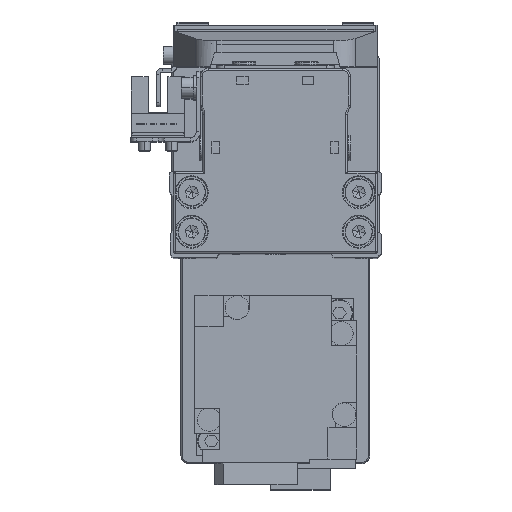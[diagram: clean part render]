
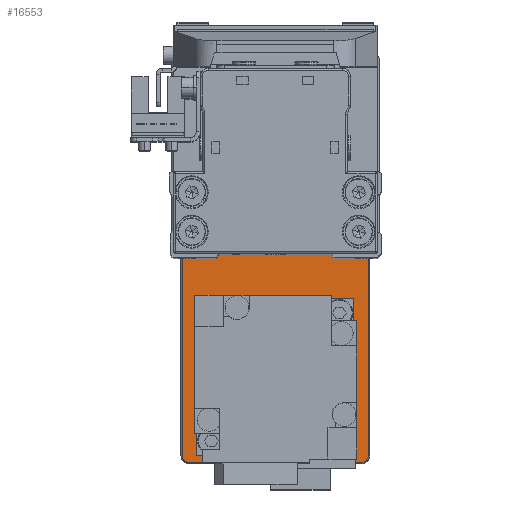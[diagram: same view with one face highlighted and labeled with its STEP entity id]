
A CAD part, top view. The second image highlights one B-rep face of the part: STEP entity #16553.
In plain terms, the highlighted planar face has unit normal (0, 0, 1).
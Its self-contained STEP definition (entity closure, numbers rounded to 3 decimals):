
#106 = CARTESIAN_POINT ( 'NONE',  ( -50., 23.7, 5. ) ) ;
#455 = VERTEX_POINT ( 'NONE', #2463 ) ;
#719 = ORIENTED_EDGE ( 'NONE', *, *, #7831, .T. ) ;
#885 = EDGE_LOOP ( 'NONE', ( #9531, #19396 ) ) ;
#1222 = VERTEX_POINT ( 'NONE', #2370 ) ;
#1460 = DIRECTION ( 'NONE',  ( -1., 0., 0. ) ) ;
#1535 = CARTESIAN_POINT ( 'NONE',  ( -17.7, 0., 5. ) ) ;
#1923 = EDGE_CURVE ( 'NONE', #1222, #37844, #28459, .T. ) ;
#2027 = DIRECTION ( 'NONE',  ( 1., 0., 0. ) ) ;
#2370 = CARTESIAN_POINT ( 'NONE',  ( 51.7, 22., 5. ) ) ;
#2463 = CARTESIAN_POINT ( 'NONE',  ( -38.3, 0., 5. ) ) ;
#3277 = LINE ( 'NONE', #9198, #26502 ) ;
#3409 = CARTESIAN_POINT ( 'NONE',  ( 30., 0., 5. ) ) ;
#3926 = DIRECTION ( 'NONE',  ( 1., 0., 0. ) ) ;
#4596 = VECTOR ( 'NONE', #1460, 1000. ) ;
#4861 = EDGE_CURVE ( 'NONE', #13318, #455, #13897, .T. ) ;
#4897 = ORIENTED_EDGE ( 'NONE', *, *, #9437, .T. ) ;
#5586 = DIRECTION ( 'NONE',  ( 0., 0., 1. ) ) ;
#5966 = CARTESIAN_POINT ( 'NONE',  ( -51.7, -22., 5. ) ) ;
#6712 = ORIENTED_EDGE ( 'NONE', *, *, #34472, .T. ) ;
#7290 = DIRECTION ( 'NONE',  ( 0., 0., 1. ) ) ;
#7480 = LINE ( 'NONE', #28914, #4596 ) ;
#7816 = LINE ( 'NONE', #20026, #21995 ) ;
#7831 = EDGE_CURVE ( 'NONE', #20052, #9656, #3277, .T. ) ;
#8204 = CARTESIAN_POINT ( 'NONE',  ( 50., 23.7, 5. ) ) ;
#8983 = CARTESIAN_POINT ( 'NONE',  ( 42.8, 0., 5. ) ) ;
#9198 = CARTESIAN_POINT ( 'NONE',  ( -51.7, -22., 5. ) ) ;
#9437 = EDGE_CURVE ( 'NONE', #30264, #20052, #38115, .T. ) ;
#9531 = ORIENTED_EDGE ( 'NONE', *, *, #4861, .T. ) ;
#9656 = VERTEX_POINT ( 'NONE', #5966 ) ;
#10287 = FACE_OUTER_BOUND ( 'NONE', #20638, .T. ) ;
#10383 = CARTESIAN_POINT ( 'NONE',  ( -28., 0., 5. ) ) ;
#10556 = ORIENTED_EDGE ( 'NONE', *, *, #13009, .T. ) ;
#10559 = CARTESIAN_POINT ( 'NONE',  ( -28., 0., 5. ) ) ;
#10585 = DIRECTION ( 'NONE',  ( 0., 0., 1. ) ) ;
#11024 = DIRECTION ( 'NONE',  ( 1., 0., 0. ) ) ;
#11949 = ORIENTED_EDGE ( 'NONE', *, *, #16801, .T. ) ;
#13009 = EDGE_CURVE ( 'NONE', #16357, #22741, #14336, .T. ) ;
#13318 = VERTEX_POINT ( 'NONE', #1535 ) ;
#13635 = AXIS2_PLACEMENT_3D ( 'NONE', #19136, #31380, #3926 ) ;
#13897 = CIRCLE ( 'NONE', #36306, 10.3 ) ;
#14110 = CIRCLE ( 'NONE', #36523, 10.3 ) ;
#14336 = CIRCLE ( 'NONE', #36756, 1.7 ) ;
#14885 = CIRCLE ( 'NONE', #37293, 12.8 ) ;
#15093 = CARTESIAN_POINT ( 'NONE',  ( 30., 0., 5. ) ) ;
#15115 = AXIS2_PLACEMENT_3D ( 'NONE', #3409, #15614, #27864 ) ;
#15614 = DIRECTION ( 'NONE',  ( 0., 0., -1. ) ) ;
#16357 = VERTEX_POINT ( 'NONE', #36369 ) ;
#16553 = ADVANCED_FACE ( 'NONE', ( #25527, #37742, #10287 ), #22499, .T. ) ;
#16719 = VECTOR ( 'NONE', #2027, 1000. ) ;
#16781 = CARTESIAN_POINT ( 'NONE',  ( -50., -23.7, 5. ) ) ;
#16801 = EDGE_CURVE ( 'NONE', #25521, #23343, #32414, .T. ) ;
#17245 = LINE ( 'NONE', #29483, #16719 ) ;
#17677 = ORIENTED_EDGE ( 'NONE', *, *, #27393, .T. ) ;
#17780 = DIRECTION ( 'NONE',  ( 1., 0., 0. ) ) ;
#18508 = CARTESIAN_POINT ( 'NONE',  ( 17.2, 0., 5. ) ) ;
#19136 = CARTESIAN_POINT ( 'NONE',  ( -50., -22., 5. ) ) ;
#19396 = ORIENTED_EDGE ( 'NONE', *, *, #33810, .T. ) ;
#19501 = DIRECTION ( 'NONE',  ( 1., 0., 0. ) ) ;
#20026 = CARTESIAN_POINT ( 'NONE',  ( 51.7, 22., 5. ) ) ;
#20052 = VERTEX_POINT ( 'NONE', #31688 ) ;
#20453 = CARTESIAN_POINT ( 'NONE',  ( 51.7, -22., 5. ) ) ;
#20638 = EDGE_LOOP ( 'NONE', ( #6712, #10556, #24895, #23538, #27084, #4897, #719, #17677 ) ) ;
#20824 = AXIS2_PLACEMENT_3D ( 'NONE', #38037, #10585, #22817 ) ;
#21426 = DIRECTION ( 'NONE',  ( 0., -1., 0. ) ) ;
#21995 = VECTOR ( 'NONE', #32269, 1000. ) ;
#22499 = PLANE ( 'NONE',  #38775 ) ;
#22603 = DIRECTION ( 'NONE',  ( 0., 0., -1. ) ) ;
#22741 = VERTEX_POINT ( 'NONE', #20453 ) ;
#22791 = DIRECTION ( 'NONE',  ( 0., 0., -1. ) ) ;
#22817 = DIRECTION ( 'NONE',  ( 1., 0., 0. ) ) ;
#23343 = VERTEX_POINT ( 'NONE', #8983 ) ;
#23538 = ORIENTED_EDGE ( 'NONE', *, *, #1923, .T. ) ;
#24895 = ORIENTED_EDGE ( 'NONE', *, *, #27929, .T. ) ;
#25521 = VERTEX_POINT ( 'NONE', #18508 ) ;
#25527 = FACE_BOUND ( 'NONE', #36889, .T. ) ;
#25660 = EDGE_CURVE ( 'NONE', #37844, #30264, #7480, .T. ) ;
#26267 = CARTESIAN_POINT ( 'NONE',  ( 50., 22., 5. ) ) ;
#26502 = VECTOR ( 'NONE', #21426, 1000. ) ;
#27084 = ORIENTED_EDGE ( 'NONE', *, *, #25660, .T. ) ;
#27345 = DIRECTION ( 'NONE',  ( 0., 0., -1. ) ) ;
#27393 = EDGE_CURVE ( 'NONE', #9656, #32529, #30943, .T. ) ;
#27864 = DIRECTION ( 'NONE',  ( 1., 0., 0. ) ) ;
#27926 = AXIS2_PLACEMENT_3D ( 'NONE', #26267, #38481, #11024 ) ;
#27929 = EDGE_CURVE ( 'NONE', #22741, #1222, #7816, .T. ) ;
#28459 = CIRCLE ( 'NONE', #27926, 1.7 ) ;
#28914 = CARTESIAN_POINT ( 'NONE',  ( -50., 23.7, 5. ) ) ;
#29483 = CARTESIAN_POINT ( 'NONE',  ( 50., -23.7, 5. ) ) ;
#30264 = VERTEX_POINT ( 'NONE', #106 ) ;
#30943 = CIRCLE ( 'NONE', #13635, 1.7 ) ;
#31380 = DIRECTION ( 'NONE',  ( 0., 0., 1. ) ) ;
#31688 = CARTESIAN_POINT ( 'NONE',  ( -51.7, 22., 5. ) ) ;
#32269 = DIRECTION ( 'NONE',  ( 0., 1., 0. ) ) ;
#32414 = CIRCLE ( 'NONE', #15115, 12.8 ) ;
#32529 = VERTEX_POINT ( 'NONE', #16781 ) ;
#33033 = CARTESIAN_POINT ( 'NONE',  ( 50., -22., 5. ) ) ;
#33423 = ORIENTED_EDGE ( 'NONE', *, *, #35918, .T. ) ;
#33810 = EDGE_CURVE ( 'NONE', #455, #13318, #14110, .T. ) ;
#34472 = EDGE_CURVE ( 'NONE', #32529, #16357, #17245, .T. ) ;
#34736 = CARTESIAN_POINT ( 'NONE',  ( 0., 0., 5. ) ) ;
#34836 = DIRECTION ( 'NONE',  ( 1., 0., 0. ) ) ;
#35006 = DIRECTION ( 'NONE',  ( 1., 0., 0. ) ) ;
#35918 = EDGE_CURVE ( 'NONE', #23343, #25521, #14885, .T. ) ;
#36306 = AXIS2_PLACEMENT_3D ( 'NONE', #10559, #22791, #35006 ) ;
#36369 = CARTESIAN_POINT ( 'NONE',  ( 50., -23.7, 5. ) ) ;
#36523 = AXIS2_PLACEMENT_3D ( 'NONE', #10383, #22603, #34836 ) ;
#36756 = AXIS2_PLACEMENT_3D ( 'NONE', #33033, #5586, #17780 ) ;
#36889 = EDGE_LOOP ( 'NONE', ( #33423, #11949 ) ) ;
#37293 = AXIS2_PLACEMENT_3D ( 'NONE', #15093, #27345, #39541 ) ;
#37742 = FACE_BOUND ( 'NONE', #885, .T. ) ;
#37844 = VERTEX_POINT ( 'NONE', #8204 ) ;
#38037 = CARTESIAN_POINT ( 'NONE',  ( -50., 22., 5. ) ) ;
#38115 = CIRCLE ( 'NONE', #20824, 1.7 ) ;
#38481 = DIRECTION ( 'NONE',  ( 0., 0., 1. ) ) ;
#38775 = AXIS2_PLACEMENT_3D ( 'NONE', #34736, #7290, #19501 ) ;
#39541 = DIRECTION ( 'NONE',  ( 1., 0., 0. ) ) ;
